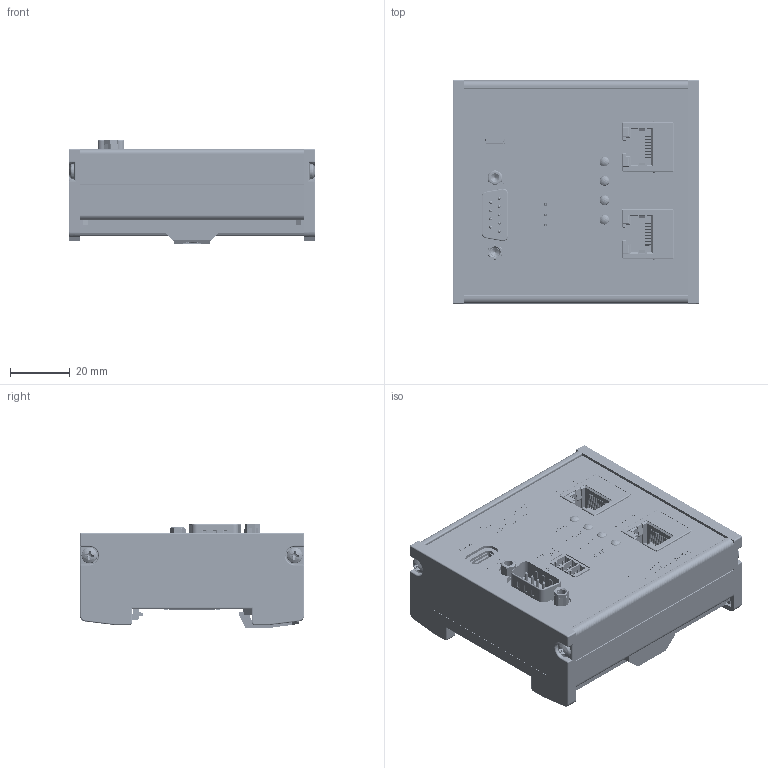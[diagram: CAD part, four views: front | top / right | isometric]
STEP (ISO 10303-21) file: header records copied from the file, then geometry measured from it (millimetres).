
FILE_DESCRIPTION (( 'STEP AP203' ), '1' );
FILE_NAME ('700-670-PNC01_V02-00 1 new.STEP', '2023-11-20T10:09:53', ( '' ), ( '' ), 'SwSTEP 2.0', 'SolidWorks 2023', '' );
FILE_SCHEMA (( 'CONFIG_CONTROL_DESIGN' ));
Length unit declared in the file: millimetre
Products named in the file (63): CLT-108-02-G-D-K.step; 6180xx29y21_VISSE.step; PLP2-xxx_PLP2-350; 31189103.step; C1027152V00.step; 61800929221_ARRIERE.step; Board7152V00.step; L__X2__00F6__X0__tende.step; Artikelnummer; 632722110112_Pin_3.stp.step; L1017152V00.step; MF-MSMF030.step; 632722110112_Housing.stp.step; J1037152V00.step; CX1037152V00.step; 7152V00-Single; CX1017152V00.step; 61800929221_INTER_ARRIERE.step; 61800929221_FACADE.step; 632722110112_Shielding_3.stp.step; RX1017152V00.step; g-alu-001 V01-03_RAL 6034 ; RESC2012X05N_0805.step; C1037152V00.step; C-0802_pins.step; 632722110112_Shielding_2.stp.step; Teil1^Baugr1_700-670-PNC01_V02-00 new; C1017152V00.step; WE-TMSB_0402_CBF.step; 700-670-PNC01_V02-00 1 new; m-k30x08-bj V 00-10; ps-alu-177_V00-03 new; CAPC2013X10_0805.step; g-alu-002_V00-00_RAL 6034; J1047152V00.step; SO8_W.step; 7152V00-Single.step; 6180xx29221_Pin.step; 632722110112_Shielding.stp.step; 61800929221.step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
Assembly tree (110 placements, depth 7):
  700-670-PNC01_V02-00 1 new
    Kopie von g-alu-076_V00-02^700-670-PNC01_V02-00 new
    Baugr1^700-670-PNC01_V02-00 new
      ps-alu-177_V00-03 new
      Teil1^Baugr1_700-670-PNC01_V02-00 new
    g-alu-001 V01-03_RAL 6034   x2
    PLP2-xxx_PLP2-350  x4
    RJ45  x2
    g-mpi-010 V00-00
    g-alu-002_V00-00_RAL 6034
    SchraubefürHutschienenclip
    m-k30x08-bj V 00-10  x4
    Artikelnummer
    7152V00-Single
      7152V00-Single.step
        Board7152V00.step
          Open CASCADE STEP translator 6.8 2.1.1.step
        C1017152V00.step
          CAPC1005X06_0402.step
        C1027152V00.step
          CAPC2013X10_0805.step
        C1037152V00.step
          CAPC1005X06_0402.step
        CX1017152V00.step
          CAPC2013X10_0805.step
        CX1027152V00.step
          CAPC2013X10_0805.step
        CX1037152V00.step
          CAPC2013X10_0805.step
        CX1047152V00.step
          CAPC2013X10_0805.step
        RX1017152V00.step
          RESC2012X05N_0805.step
        RX1027152V00.step
          RESC2012X05N_0805.step
        F1017152V00.step
          MF-MSMF030.step
        IC1017152V00.step
          SO8_W.step
        J1017152V00.step
          31189103.step
        J102.07152V00.step
          CLT-108-02-G-D-K.step
            CLT_polyamide_film_pad.step
            C-0802_pins.step
            CLT-108-02-G-D-K_socket.step
        J1037152V00.step
          WE-WR-COM-632722110112_(rev1)_color.step
            STEP_632722110112_(rev1).stp.step
              632722110112_Shielding.stp.step
              632722110112_Housing.stp.step
              632722110112_Shielding_2.stp.step  x2
              632722110112_Shielding_3.stp.step  x2
              632722110112_Pin_1.stp.step  x4
              632722110112_Pin_2.stp.step  x16
              632722110112_Pin_3.stp.step  x4
        J1047152V00.step
          61800929221.step
            6180xx29221_Pin.step  x9
            61800929221_INTER_ARRIERE.step
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Bounding box: 83 x 75.4 x 34.98 mm (x, y, z)
Volume: 54493.6 mm3; surface area: 75349.9 mm2
Topology: 219 solids, 220 shells, 7966 faces, 21106 edges, 13502 vertices
Faces by surface type: plane 4819, cylinder 1706, bspline 1166, cone 162, sphere 69, torus 44
Entity records: 223479 total; most frequent: CARTESIAN_POINT 88467, ORIENTED_EDGE 27936, DIRECTION 23350, EDGE_CURVE 13968, LINE 10080, VECTOR 10080, VERTEX_POINT 9044, AXIS2_PLACEMENT_3D 6635
